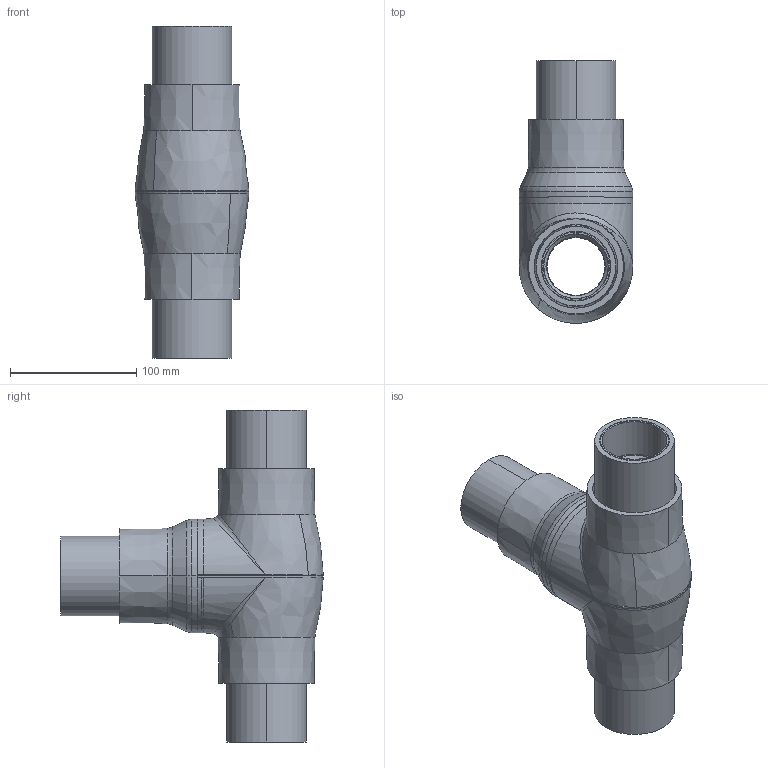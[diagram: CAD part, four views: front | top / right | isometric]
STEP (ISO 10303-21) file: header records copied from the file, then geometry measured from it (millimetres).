
FILE_DESCRIPTION (( 'STEP AP203' ), '1' );
FILE_NAME ('KP_8-75-63SC02.step', '2011-08-08T11:40:57', ( '' ), ( '' ), 'SwSTEP 2.0', 'SolidWorks 2011', '' );
FILE_SCHEMA (( 'CONFIG_CONTROL_DESIGN' ));
Length unit declared in the file: millimetre
Products named in the file (1): KP_8-75-63SC02
Bounding box: 90 x 207.99 x 263 mm (x, y, z)
Volume: 839253.7 mm3; surface area: 395284.8 mm2
Topology: 4 solids, 4 shells, 266 faces, 618 edges, 354 vertices
Faces by surface type: torus 103, cylinder 65, plane 42, bspline 30, cone 26
Entity records: 16313 total; most frequent: CARTESIAN_POINT 10379, DIRECTION 1282, ORIENTED_EDGE 1208, EDGE_CURVE 604, AXIS2_PLACEMENT_3D 569, VERTEX_POINT 354, CIRCLE 332, EDGE_LOOP 288
